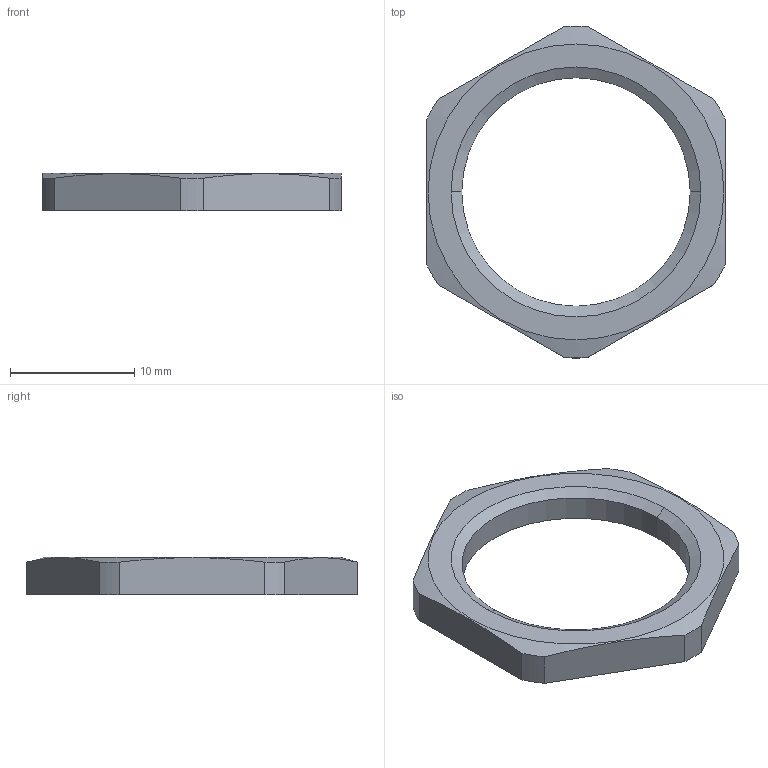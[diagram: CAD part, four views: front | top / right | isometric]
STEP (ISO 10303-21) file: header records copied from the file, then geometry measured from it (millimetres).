
FILE_DESCRIPTION (( 'STEP AP203' ), '1' );
FILE_NAME ('50.220 M.STEP', '2006-05-22T07:09:03', ( ' ' ), ( '' ), 'SwSTEP 2.0', 'SolidWorks 2005278', '' );
FILE_SCHEMA (( 'CONFIG_CONTROL_DESIGN' ));
Length unit declared in the file: millimetre
Products named in the file (1): 50.220 M
Bounding box: 24 x 26.69 x 3 mm (x, y, z)
Volume: 659.4 mm3; surface area: 827.9 mm2
Topology: 1 solids, 1 shells, 59 faces, 158 edges, 104 vertices
Faces by surface type: plane 45, cylinder 8, cone 6
Entity records: 1919 total; most frequent: CARTESIAN_POINT 354, ORIENTED_EDGE 316, DIRECTION 292, EDGE_CURVE 158, LINE 128, VECTOR 128, VERTEX_POINT 104, AXIS2_PLACEMENT_3D 82
